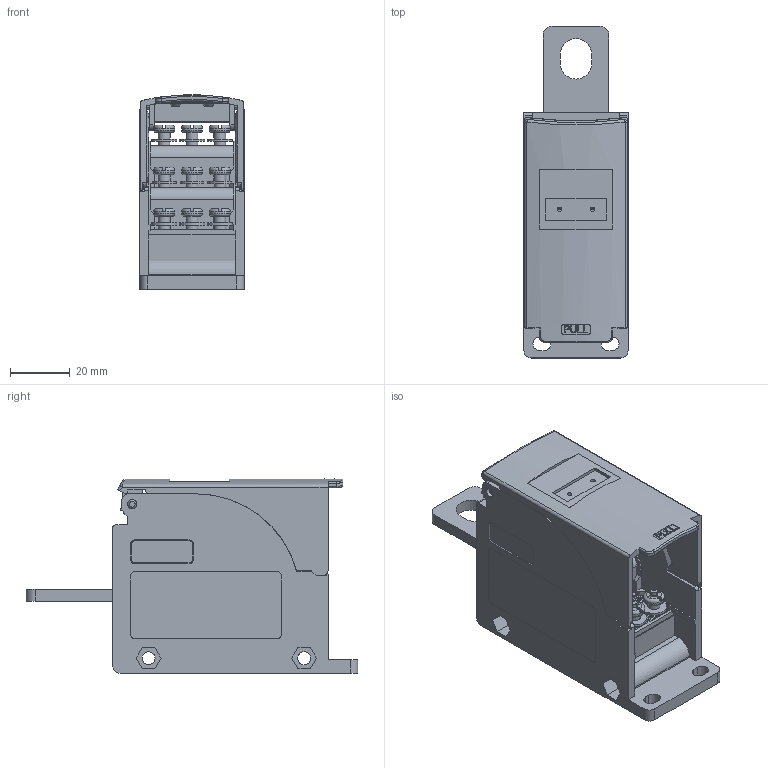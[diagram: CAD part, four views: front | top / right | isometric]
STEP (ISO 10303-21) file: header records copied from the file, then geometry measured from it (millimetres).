
FILE_DESCRIPTION(/* description */ (''),/* implementation_level */ '2;1');
FILE_NAME(/* name */ 'SPD-35L.stp',/* time_stamp */ '2019-09-10T17:18:17+09:00',/* author */ (''),/* organization */ (''),/* preprocessor_version */ 'ST-DEVELOPER v16.7',/* originating_system */ 'SIEMENS PLM Software NX 12.0',/* authorisation */ '');
FILE_SCHEMA (('AP203_CONFIGURATION_CONTROLLED_3D_DESIGN_OF_MECHANICAL_PARTS_AND_ASSEMBLIES_MIM_LF { 1 0 10303 403 2 1 2}'));
Length unit declared in the file: millimetre
Products named in the file (1): ksle9004D072lcll
Bounding box: 34.8 x 111 x 64.99 mm (x, y, z)
Volume: 97547 mm3; surface area: 33066 mm2
Topology: 1 solids, 1 shells, 977 faces, 2651 edges, 1721 vertices
Faces by surface type: plane 713, cylinder 171, cone 46, torus 31, bspline 7, extrusion 7, sphere 2
Full cylindrical faces by diameter (mm): 1.5 x2, 2.9 x2, 3.1 x2, 4 x18, 4.3 x2, 7 x9, 8 x3, 8.5 x6
Entity records: 36374 total; most frequent: CARTESIAN_POINT 7111, ORIENTED_EDGE 5108, DIRECTION 5079, EDGE_CURVE 2554, VECTOR 1723, LINE 1716, VERTEX_POINT 1685, AXIS2_PLACEMENT_3D 1678
